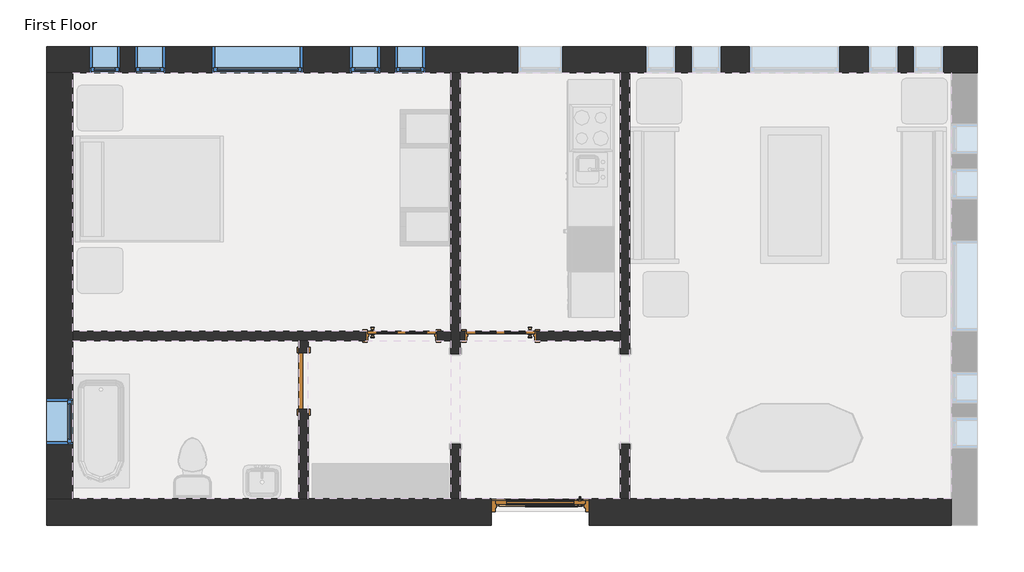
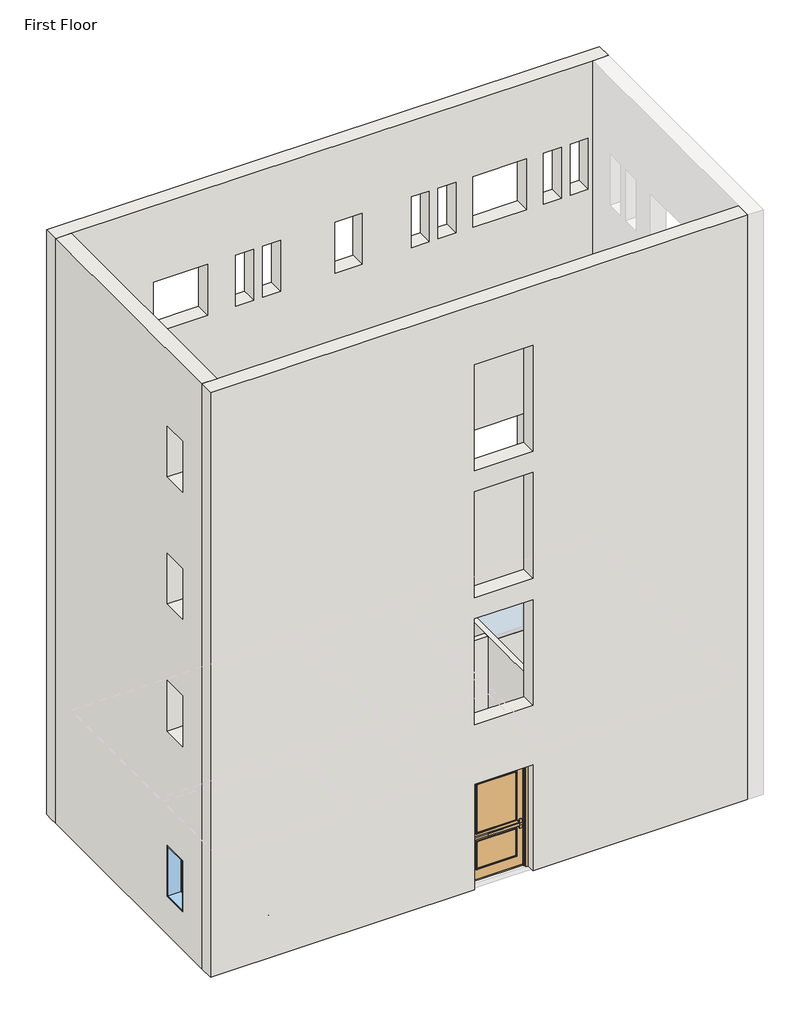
# One storey, part 1 of 2: 7 walls, 6 windows, 4 doors.
"""IFC4 building model written with IfcOpenShell, lengths in millimetres."""

from ifc_helpers import new_model, si_unit, frame, origin, place, context, project, spatial, polyline, outline, extrude, faceted_brep, transform, mapped, element, save
from components import door_734823c0, door_3a280f7b, door_48307b55, door_4d6c7550, window_da97879f, window_d61ef850, window_60baf983, window_6eb97611

model = new_model("IFC4")

# Units and contexts
model_context = context("Model", 3, world=origin())
ifc_project = project(units=[si_unit("LENGTHUNIT", "METRE", prefix="MILLI")], contexts=[model_context])

# Site, building, storey
site = spatial("IfcSite", under=ifc_project)
building = spatial("IfcBuilding", under=site)
storey = spatial("IfcBuildingStorey", under=building, Name="First Floor", Elevation=-914.4)

# Doors
placement = place(None, origin())
door_shape = door_734823c0(model_context)
element("IfcDoor", 1, ObjectType="Door-Exterior-Single-Two_Lite : 48\" x 96\"", at=placement, inside=storey, context=model_context, shape_type="MappedRepresentation", body=[
    mapped(door_shape, transform((-9720.1844712, 1685.5066174, -914.4), x_axis=(-1.0, 0.0, 0.0), y_axis=(0.0, -1.0, 0.0), z_axis=(0.0, 0.0, 1.0))),
])
door_2_shape = door_3a280f7b(model_context)
element("IfcDoor", 2, ObjectType="Door-Interior-Single-4_Panel-Wood : 36\" x 84\"", at=placement, inside=storey, context=model_context, shape_type="MappedRepresentation", body=[
    mapped(door_2_shape, transform((-10253.5844712, 4068.3441174, -914.4), x_axis=(-1.0, 0.0, 0.0), y_axis=(0.0, -1.0, 0.0), z_axis=(0.0, 0.0, 1.0))),
])
door_3_shape = door_48307b55(model_context)
element("IfcDoor", 3, ObjectType="Door-Interior-Single-4_Panel-Wood : 36\" x 84\"", at=placement, inside=storey, context=model_context, shape_type="MappedRepresentation", body=[
    mapped(door_3_shape, transform((-11588.6719712, 4068.3441174, -914.4), x_axis=(1.0, 0.0, 0.0), y_axis=(0.0, 1.0, 0.0), z_axis=(0.0, 0.0, 1.0))),
])
door_4_shape = door_4d6c7550(model_context)
element("IfcDoor", 4, ObjectType="Single-Flush : 30\" x 84\"", at=placement, inside=storey, context=model_context, shape_type="MappedRepresentation", body=[
    mapped(door_4_shape, transform((-12909.4719712, 3455.5691174, -914.4), x_axis=(0.0, 1.0, 0.0), y_axis=(-1.0, 0.0, 0.0), z_axis=(0.0, 0.0, 1.0))),
])

# Walls
element("IfcWall", 5, ObjectType="Exterior - Brick on Mtl. Stud", at=placement, inside=storey, context=model_context, shape_type="Brep", body=[
    faceted_brep([(-16373.3969712, 7611.6441174, -914.4), (-16186.0719712, 7611.6441174, -914.4), (-16020.9719712, 7611.6441174, -914.4), (-10926.6844712, 7611.6441174, -914.4), (-10799.6844712, 7611.6441174, -914.4), (-8640.6844712, 7611.6441174, -914.4), (-8513.6844712, 7611.6441174, -914.4), (-4181.3969712, 7611.6441174, -914.4), (-4016.2969712, 7611.6441174, -914.4), (-3828.9719712, 7611.6441174, -914.4), (-3828.9719712, 7611.6441174, 13106.4), (-4181.3969712, 7611.6441174, 13106.4), (-16020.9719712, 7611.6441174, 13106.4), (-16373.3969712, 7611.6441174, 13106.4), (-10024.9844712, 7611.6441174, 1219.2), (-9415.3844712, 7611.6441174, 1219.2), (-9415.3844712, 7611.6441174, 0.0), (-10024.9844712, 7611.6441174, 0.0), (-14139.7844712, 7611.6441174, 1219.2), (-12920.5844712, 7611.6441174, 1219.2), (-12920.5844712, 7611.6441174, 0.0), (-14139.7844712, 7611.6441174, 0.0), (-6900.7844712, 7611.6441174, 1219.2), (-5681.5844712, 7611.6441174, 1219.2), (-5681.5844712, 7611.6441174, 0.0), (-6900.7844712, 7611.6441174, 0.0), (-15790.7844712, 7611.6441174, 1219.2), (-15384.3844712, 7611.6441174, 1219.2), (-15384.3844712, 7611.6441174, 0.0), (-15790.7844712, 7611.6441174, 0.0), (-15181.1844712, 7611.6441174, 1219.2), (-14774.7844712, 7611.6441174, 1219.2), (-14774.7844712, 7611.6441174, 0.0), (-15181.1844712, 7611.6441174, 0.0), (-11879.1844712, 7611.6441174, 1219.2), (-11879.1844712, 7611.6441174, 0.0), (-12285.5844712, 7611.6441174, 0.0), (-12285.5844712, 7611.6441174, 1219.2), (-11269.5844712, 7611.6441174, 1219.2), (-11269.5844712, 7611.6441174, 0.0), (-11675.9844712, 7611.6441174, 0.0), (-11675.9844712, 7611.6441174, 1219.2), (-7688.1844712, 7611.6441174, 1219.2), (-7281.7844712, 7611.6441174, 1219.2), (-7281.7844712, 7611.6441174, 0.0), (-7688.1844712, 7611.6441174, 0.0), (-8297.7844712, 7611.6441174, 1219.2), (-7891.3844712, 7611.6441174, 1219.2), (-7891.3844712, 7611.6441174, 0.0), (-8297.7844712, 7611.6441174, 0.0), (-4894.1844712, 7611.6441174, 1219.2), (-4894.1844712, 7611.6441174, 0.0), (-5300.5844712, 7611.6441174, 0.0), (-5300.5844712, 7611.6441174, 1219.2), (-4284.5844712, 7611.6441174, 1219.2), (-4284.5844712, 7611.6441174, 0.0), (-4690.9844712, 7611.6441174, 0.0), (-4690.9844712, 7611.6441174, 1219.2), (-4894.1844712, 7611.6441174, 11277.6), (-4894.1844712, 7611.6441174, 10058.4), (-5300.5844712, 7611.6441174, 10058.4), (-5300.5844712, 7611.6441174, 11277.6), (-4284.5844712, 7611.6441174, 11277.6), (-4284.5844712, 7611.6441174, 10058.4), (-4690.9844712, 7611.6441174, 10058.4), (-4690.9844712, 7611.6441174, 11277.6), (-7688.1844712, 7611.6441174, 11277.6), (-7281.7844712, 7611.6441174, 11277.6), (-7281.7844712, 7611.6441174, 10058.4), (-7688.1844712, 7611.6441174, 10058.4), (-8297.7844712, 7611.6441174, 11277.6), (-7891.3844712, 7611.6441174, 11277.6), (-7891.3844712, 7611.6441174, 10058.4), (-8297.7844712, 7611.6441174, 10058.4), (-11879.1844712, 7611.6441174, 11277.6), (-11879.1844712, 7611.6441174, 10058.4), (-12285.5844712, 7611.6441174, 10058.4), (-12285.5844712, 7611.6441174, 11277.6), (-11269.5844712, 7611.6441174, 11277.6), (-11269.5844712, 7611.6441174, 10058.4), (-11675.9844712, 7611.6441174, 10058.4), (-11675.9844712, 7611.6441174, 11277.6), (-15181.1844712, 7611.6441174, 11277.6), (-14774.7844712, 7611.6441174, 11277.6), (-14774.7844712, 7611.6441174, 10058.4), (-15181.1844712, 7611.6441174, 10058.4), (-15790.7844712, 7611.6441174, 11277.6), (-15384.3844712, 7611.6441174, 11277.6), (-15384.3844712, 7611.6441174, 10058.4), (-15790.7844712, 7611.6441174, 10058.4), (-6900.7844712, 7611.6441174, 11277.6), (-5681.5844712, 7611.6441174, 11277.6), (-5681.5844712, 7611.6441174, 10058.4), (-6900.7844712, 7611.6441174, 10058.4), (-14139.7844712, 7611.6441174, 11277.6), (-12920.5844712, 7611.6441174, 11277.6), (-12920.5844712, 7611.6441174, 10058.4), (-14139.7844712, 7611.6441174, 10058.4), (-10024.9844712, 7611.6441174, 11277.6), (-9415.3844712, 7611.6441174, 11277.6), (-9415.3844712, 7611.6441174, 10058.4), (-10024.9844712, 7611.6441174, 10058.4), (-4894.1844712, 7611.6441174, 5181.6), (-4894.1844712, 7611.6441174, 3962.4), (-5300.5844712, 7611.6441174, 3962.4), (-5300.5844712, 7611.6441174, 5181.6), (-4284.5844712, 7611.6441174, 5181.6), (-4284.5844712, 7611.6441174, 3962.4), (-4690.9844712, 7611.6441174, 3962.4), (-4690.9844712, 7611.6441174, 5181.6), (-7688.1844712, 7611.6441174, 5181.6), (-7281.7844712, 7611.6441174, 5181.6), (-7281.7844712, 7611.6441174, 3962.4), (-7688.1844712, 7611.6441174, 3962.4), (-8297.7844712, 7611.6441174, 5181.6), (-7891.3844712, 7611.6441174, 5181.6), (-7891.3844712, 7611.6441174, 3962.4), (-8297.7844712, 7611.6441174, 3962.4), (-11879.1844712, 7611.6441174, 5181.6), (-11879.1844712, 7611.6441174, 3962.4), (-12285.5844712, 7611.6441174, 3962.4), (-12285.5844712, 7611.6441174, 5181.6), (-11269.5844712, 7611.6441174, 5181.6), (-11269.5844712, 7611.6441174, 3962.4), (-11675.9844712, 7611.6441174, 3962.4), (-11675.9844712, 7611.6441174, 5181.6), (-15181.1844712, 7611.6441174, 5181.6), (-14774.7844712, 7611.6441174, 5181.6), (-14774.7844712, 7611.6441174, 3962.4), (-15181.1844712, 7611.6441174, 3962.4), (-15790.7844712, 7611.6441174, 5181.6), (-15384.3844712, 7611.6441174, 5181.6), (-15384.3844712, 7611.6441174, 3962.4), (-15790.7844712, 7611.6441174, 3962.4), (-6900.7844712, 7611.6441174, 5181.6), (-5681.5844712, 7611.6441174, 5181.6), (-5681.5844712, 7611.6441174, 3962.4), (-6900.7844712, 7611.6441174, 3962.4), (-14139.7844712, 7611.6441174, 5181.6), (-12920.5844712, 7611.6441174, 5181.6), (-12920.5844712, 7611.6441174, 3962.4), (-14139.7844712, 7611.6441174, 3962.4), (-10024.9844712, 7611.6441174, 5181.6), (-9415.3844712, 7611.6441174, 5181.6), (-9415.3844712, 7611.6441174, 3962.4), (-10024.9844712, 7611.6441174, 3962.4), (-4894.1844712, 7611.6441174, 8229.6), (-4894.1844712, 7611.6441174, 7010.4), (-5300.5844712, 7611.6441174, 7010.4), (-5300.5844712, 7611.6441174, 8229.6), (-4284.5844712, 7611.6441174, 8229.6), (-4284.5844712, 7611.6441174, 7010.4), (-4690.9844712, 7611.6441174, 7010.4), (-4690.9844712, 7611.6441174, 8229.6), (-7688.1844712, 7611.6441174, 8229.6), (-7281.7844712, 7611.6441174, 8229.6), (-7281.7844712, 7611.6441174, 7010.4), (-7688.1844712, 7611.6441174, 7010.4), (-8297.7844712, 7611.6441174, 8229.6), (-7891.3844712, 7611.6441174, 8229.6), (-7891.3844712, 7611.6441174, 7010.4), (-8297.7844712, 7611.6441174, 7010.4), (-11879.1844712, 7611.6441174, 8229.6), (-11879.1844712, 7611.6441174, 7010.4), (-12285.5844712, 7611.6441174, 7010.4), (-12285.5844712, 7611.6441174, 8229.6), (-11269.5844712, 7611.6441174, 8229.6), (-11269.5844712, 7611.6441174, 7010.4), (-11675.9844712, 7611.6441174, 7010.4), (-11675.9844712, 7611.6441174, 8229.6), (-15181.1844712, 7611.6441174, 8229.6), (-14774.7844712, 7611.6441174, 8229.6), (-14774.7844712, 7611.6441174, 7010.4), (-15181.1844712, 7611.6441174, 7010.4), (-15790.7844712, 7611.6441174, 8229.6), (-15384.3844712, 7611.6441174, 8229.6), (-15384.3844712, 7611.6441174, 7010.4), (-15790.7844712, 7611.6441174, 7010.4), (-6900.7844712, 7611.6441174, 8229.6), (-5681.5844712, 7611.6441174, 8229.6), (-5681.5844712, 7611.6441174, 7010.4), (-6900.7844712, 7611.6441174, 7010.4), (-14139.7844712, 7611.6441174, 8229.6), (-12920.5844712, 7611.6441174, 8229.6), (-12920.5844712, 7611.6441174, 7010.4), (-14139.7844712, 7611.6441174, 7010.4), (-10024.9844712, 7611.6441174, 8229.6), (-9415.3844712, 7611.6441174, 8229.6), (-9415.3844712, 7611.6441174, 7010.4), (-10024.9844712, 7611.6441174, 7010.4), (-16373.3969712, 7964.0691174, -914.4), (-16373.3969712, 7964.0691174, 13106.4), (-3828.9719712, 7964.0691174, 13106.4), (-3828.9719712, 7964.0691174, -914.4), (-4016.2969712, 7964.0691174, -914.4), (-16186.0719712, 7964.0691174, -914.4), (-10024.9844712, 7964.0691174, 1219.2), (-10024.9844712, 7964.0691174, 0.0), (-9415.3844712, 7964.0691174, 0.0), (-9415.3844712, 7964.0691174, 1219.2), (-14139.7844712, 7964.0691174, 1219.2), (-14139.7844712, 7964.0691174, 0.0), (-12920.5844712, 7964.0691174, 0.0), (-12920.5844712, 7964.0691174, 1219.2), (-6900.7844712, 7964.0691174, 1219.2), (-6900.7844712, 7964.0691174, 0.0), (-5681.5844712, 7964.0691174, 0.0), (-5681.5844712, 7964.0691174, 1219.2), (-15790.7844712, 7964.0691174, 1219.2), (-15790.7844712, 7964.0691174, 0.0), (-15384.3844712, 7964.0691174, 0.0), (-15384.3844712, 7964.0691174, 1219.2), (-15181.1844712, 7964.0691174, 1219.2), (-15181.1844712, 7964.0691174, 0.0), (-14774.7844712, 7964.0691174, 0.0), (-14774.7844712, 7964.0691174, 1219.2), (-11879.1844712, 7964.0691174, 1219.2), (-12285.5844712, 7964.0691174, 1219.2), (-12285.5844712, 7964.0691174, 0.0), (-11879.1844712, 7964.0691174, 0.0), (-11269.5844712, 7964.0691174, 1219.2), (-11675.9844712, 7964.0691174, 1219.2), (-11675.9844712, 7964.0691174, 0.0), (-11269.5844712, 7964.0691174, 0.0), (-7688.1844712, 7964.0691174, 1219.2), (-7688.1844712, 7964.0691174, 0.0), (-7281.7844712, 7964.0691174, 0.0), (-7281.7844712, 7964.0691174, 1219.2), (-8297.7844712, 7964.0691174, 1219.2), (-8297.7844712, 7964.0691174, 0.0), (-7891.3844712, 7964.0691174, 0.0), (-7891.3844712, 7964.0691174, 1219.2), (-4894.1844712, 7964.0691174, 1219.2), (-5300.5844712, 7964.0691174, 1219.2), (-5300.5844712, 7964.0691174, 0.0), (-4894.1844712, 7964.0691174, 0.0), (-4284.5844712, 7964.0691174, 1219.2), (-4690.9844712, 7964.0691174, 1219.2), (-4690.9844712, 7964.0691174, 0.0), (-4284.5844712, 7964.0691174, 0.0), (-4894.1844712, 7964.0691174, 11277.6), (-5300.5844712, 7964.0691174, 11277.6), (-5300.5844712, 7964.0691174, 10058.4), (-4894.1844712, 7964.0691174, 10058.4), (-4284.5844712, 7964.0691174, 11277.6), (-4690.9844712, 7964.0691174, 11277.6), (-4690.9844712, 7964.0691174, 10058.4), (-4284.5844712, 7964.0691174, 10058.4), (-7688.1844712, 7964.0691174, 11277.6), (-7688.1844712, 7964.0691174, 10058.4), (-7281.7844712, 7964.0691174, 10058.4), (-7281.7844712, 7964.0691174, 11277.6), (-8297.7844712, 7964.0691174, 11277.6), (-8297.7844712, 7964.0691174, 10058.4), (-7891.3844712, 7964.0691174, 10058.4), (-7891.3844712, 7964.0691174, 11277.6), (-11879.1844712, 7964.0691174, 11277.6), (-12285.5844712, 7964.0691174, 11277.6), (-12285.5844712, 7964.0691174, 10058.4), (-11879.1844712, 7964.0691174, 10058.4), (-11269.5844712, 7964.0691174, 11277.6), (-11675.9844712, 7964.0691174, 11277.6), (-11675.9844712, 7964.0691174, 10058.4), (-11269.5844712, 7964.0691174, 10058.4), (-15181.1844712, 7964.0691174, 11277.6), (-15181.1844712, 7964.0691174, 10058.4), (-14774.7844712, 7964.0691174, 10058.4), (-14774.7844712, 7964.0691174, 11277.6), (-15790.7844712, 7964.0691174, 11277.6), (-15790.7844712, 7964.0691174, 10058.4), (-15384.3844712, 7964.0691174, 10058.4), (-15384.3844712, 7964.0691174, 11277.6), (-6900.7844712, 7964.0691174, 11277.6), (-6900.7844712, 7964.0691174, 10058.4), (-5681.5844712, 7964.0691174, 10058.4), (-5681.5844712, 7964.0691174, 11277.6), (-14139.7844712, 7964.0691174, 11277.6), (-14139.7844712, 7964.0691174, 10058.4), (-12920.5844712, 7964.0691174, 10058.4), (-12920.5844712, 7964.0691174, 11277.6), (-10024.9844712, 7964.0691174, 11277.6), (-10024.9844712, 7964.0691174, 10058.4), (-9415.3844712, 7964.0691174, 10058.4), (-9415.3844712, 7964.0691174, 11277.6), (-4894.1844712, 7964.0691174, 5181.6), (-5300.5844712, 7964.0691174, 5181.6), (-5300.5844712, 7964.0691174, 3962.4), (-4894.1844712, 7964.0691174, 3962.4), (-4284.5844712, 7964.0691174, 5181.6), (-4690.9844712, 7964.0691174, 5181.6), (-4690.9844712, 7964.0691174, 3962.4), (-4284.5844712, 7964.0691174, 3962.4), (-7688.1844712, 7964.0691174, 5181.6), (-7688.1844712, 7964.0691174, 3962.4), (-7281.7844712, 7964.0691174, 3962.4), (-7281.7844712, 7964.0691174, 5181.6), (-8297.7844712, 7964.0691174, 5181.6), (-8297.7844712, 7964.0691174, 3962.4), (-7891.3844712, 7964.0691174, 3962.4), (-7891.3844712, 7964.0691174, 5181.6), (-11879.1844712, 7964.0691174, 5181.6), (-12285.5844712, 7964.0691174, 5181.6), (-12285.5844712, 7964.0691174, 3962.4), (-11879.1844712, 7964.0691174, 3962.4), (-11269.5844712, 7964.0691174, 5181.6), (-11675.9844712, 7964.0691174, 5181.6), (-11675.9844712, 7964.0691174, 3962.4), (-11269.5844712, 7964.0691174, 3962.4), (-15181.1844712, 7964.0691174, 5181.6), (-15181.1844712, 7964.0691174, 3962.4), (-14774.7844712, 7964.0691174, 3962.4), (-14774.7844712, 7964.0691174, 5181.6), (-15790.7844712, 7964.0691174, 5181.6), (-15790.7844712, 7964.0691174, 3962.4), (-15384.3844712, 7964.0691174, 3962.4), (-15384.3844712, 7964.0691174, 5181.6), (-6900.7844712, 7964.0691174, 5181.6), (-6900.7844712, 7964.0691174, 3962.4), (-5681.5844712, 7964.0691174, 3962.4), (-5681.5844712, 7964.0691174, 5181.6), (-14139.7844712, 7964.0691174, 5181.6), (-14139.7844712, 7964.0691174, 3962.4), (-12920.5844712, 7964.0691174, 3962.4), (-12920.5844712, 7964.0691174, 5181.6), (-10024.9844712, 7964.0691174, 5181.6), (-10024.9844712, 7964.0691174, 3962.4), (-9415.3844712, 7964.0691174, 3962.4), (-9415.3844712, 7964.0691174, 5181.6), (-4894.1844712, 7964.0691174, 8229.6), (-5300.5844712, 7964.0691174, 8229.6), (-5300.5844712, 7964.0691174, 7010.4), (-4894.1844712, 7964.0691174, 7010.4), (-4284.5844712, 7964.0691174, 8229.6), (-4690.9844712, 7964.0691174, 8229.6), (-4690.9844712, 7964.0691174, 7010.4), (-4284.5844712, 7964.0691174, 7010.4), (-7688.1844712, 7964.0691174, 8229.6), (-7688.1844712, 7964.0691174, 7010.4), (-7281.7844712, 7964.0691174, 7010.4), (-7281.7844712, 7964.0691174, 8229.6), (-8297.7844712, 7964.0691174, 8229.6), (-8297.7844712, 7964.0691174, 7010.4), (-7891.3844712, 7964.0691174, 7010.4), (-7891.3844712, 7964.0691174, 8229.6), (-11879.1844712, 7964.0691174, 8229.6), (-12285.5844712, 7964.0691174, 8229.6), (-12285.5844712, 7964.0691174, 7010.4), (-11879.1844712, 7964.0691174, 7010.4), (-11269.5844712, 7964.0691174, 8229.6), (-11675.9844712, 7964.0691174, 8229.6), (-11675.9844712, 7964.0691174, 7010.4), (-11269.5844712, 7964.0691174, 7010.4), (-15181.1844712, 7964.0691174, 8229.6), (-15181.1844712, 7964.0691174, 7010.4), (-14774.7844712, 7964.0691174, 7010.4), (-14774.7844712, 7964.0691174, 8229.6), (-15790.7844712, 7964.0691174, 8229.6), (-15790.7844712, 7964.0691174, 7010.4), (-15384.3844712, 7964.0691174, 7010.4), (-15384.3844712, 7964.0691174, 8229.6), (-6900.7844712, 7964.0691174, 8229.6), (-6900.7844712, 7964.0691174, 7010.4), (-5681.5844712, 7964.0691174, 7010.4), (-5681.5844712, 7964.0691174, 8229.6), (-14139.7844712, 7964.0691174, 8229.6), (-14139.7844712, 7964.0691174, 7010.4), (-12920.5844712, 7964.0691174, 7010.4), (-12920.5844712, 7964.0691174, 8229.6), (-10024.9844712, 7964.0691174, 8229.6), (-10024.9844712, 7964.0691174, 7010.4), (-9415.3844712, 7964.0691174, 7010.4), (-9415.3844712, 7964.0691174, 8229.6), (-3828.9719712, 7776.7441174, -914.4), (-16373.3969712, 7776.7441174, -914.4), (-16186.0719712, 7776.7441174, -914.4), (-4016.2969712, 7776.7441174, -914.4)], [[[0, 1, 2, 3, 4, 5, 6, 7, 8, 9, 10, 11, 12, 13], [14, 15, 16, 17], [18, 19, 20, 21], [22, 23, 24, 25], [26, 27, 28, 29], [30, 31, 32, 33], [34, 35, 36, 37], [38, 39, 40, 41], [42, 43, 44, 45], [46, 47, 48, 49], [50, 51, 52, 53], [54, 55, 56, 57], [58, 59, 60, 61], [62, 63, 64, 65], [66, 67, 68, 69], [70, 71, 72, 73], [74, 75, 76, 77], [78, 79, 80, 81], [82, 83, 84, 85], [86, 87, 88, 89], [90, 91, 92, 93], [94, 95, 96, 97], [98, 99, 100, 101], [102, 103, 104, 105], [106, 107, 108, 109], [110, 111, 112, 113], [114, 115, 116, 117], [118, 119, 120, 121], [122, 123, 124, 125], [126, 127, 128, 129], [130, 131, 132, 133], [134, 135, 136, 137], [138, 139, 140, 141], [142, 143, 144, 145], [146, 147, 148, 149], [150, 151, 152, 153], [154, 155, 156, 157], [158, 159, 160, 161], [162, 163, 164, 165], [166, 167, 168, 169], [170, 171, 172, 173], [174, 175, 176, 177], [178, 179, 180, 181], [182, 183, 184, 185], [186, 187, 188, 189]], [[190, 191, 192, 193, 194, 195], [196, 197, 198, 199], [200, 201, 202, 203], [204, 205, 206, 207], [208, 209, 210, 211], [212, 213, 214, 215], [216, 217, 218, 219], [220, 221, 222, 223], [224, 225, 226, 227], [228, 229, 230, 231], [232, 233, 234, 235], [236, 237, 238, 239], [240, 241, 242, 243], [244, 245, 246, 247], [248, 249, 250, 251], [252, 253, 254, 255], [256, 257, 258, 259], [260, 261, 262, 263], [264, 265, 266, 267], [268, 269, 270, 271], [272, 273, 274, 275], [276, 277, 278, 279], [280, 281, 282, 283], [284, 285, 286, 287], [288, 289, 290, 291], [292, 293, 294, 295], [296, 297, 298, 299], [300, 301, 302, 303], [304, 305, 306, 307], [308, 309, 310, 311], [312, 313, 314, 315], [316, 317, 318, 319], [320, 321, 322, 323], [324, 325, 326, 327], [328, 329, 330, 331], [332, 333, 334, 335], [336, 337, 338, 339], [340, 341, 342, 343], [344, 345, 346, 347], [348, 349, 350, 351], [352, 353, 354, 355], [356, 357, 358, 359], [360, 361, 362, 363], [364, 365, 366, 367], [368, 369, 370, 371]], [[13, 12, 11, 10, 192, 191]], [[10, 9, 372, 193, 192]], [[0, 13, 191, 190, 373]], [[197, 196, 14, 17]], [[198, 197, 17, 16]], [[199, 198, 16, 15]], [[196, 199, 15, 14]], [[201, 200, 18, 21]], [[202, 201, 21, 20]], [[203, 202, 20, 19]], [[200, 203, 19, 18]], [[205, 204, 22, 25]], [[206, 205, 25, 24]], [[207, 206, 24, 23]], [[204, 207, 23, 22]], [[209, 208, 26, 29]], [[210, 209, 29, 28]], [[211, 210, 28, 27]], [[208, 211, 27, 26]], [[213, 212, 30, 33]], [[214, 213, 33, 32]], [[215, 214, 32, 31]], [[212, 215, 31, 30]], [[35, 34, 216, 219]], [[36, 35, 219, 218]], [[37, 36, 218, 217]], [[34, 37, 217, 216]], [[39, 38, 220, 223]], [[40, 39, 223, 222]], [[41, 40, 222, 221]], [[38, 41, 221, 220]], [[225, 224, 42, 45]], [[226, 225, 45, 44]], [[227, 226, 44, 43]], [[224, 227, 43, 42]], [[229, 228, 46, 49]], [[230, 229, 49, 48]], [[231, 230, 48, 47]], [[228, 231, 47, 46]], [[51, 50, 232, 235]], [[52, 51, 235, 234]], [[53, 52, 234, 233]], [[50, 53, 233, 232]], [[55, 54, 236, 239]], [[56, 55, 239, 238]], [[57, 56, 238, 237]], [[54, 57, 237, 236]], [[1, 0, 373, 374]], [[373, 190, 195, 374]], [[9, 8, 375, 372]], [[195, 194, 375, 374]], [[194, 193, 372, 375]], [[8, 7, 6, 5, 4, 3, 2, 1, 374, 375]], [[59, 58, 240, 243]], [[60, 59, 243, 242]], [[61, 60, 242, 241]], [[58, 61, 241, 240]], [[63, 62, 244, 247]], [[64, 63, 247, 246]], [[65, 64, 246, 245]], [[62, 65, 245, 244]], [[249, 248, 66, 69]], [[250, 249, 69, 68]], [[251, 250, 68, 67]], [[248, 251, 67, 66]], [[253, 252, 70, 73]], [[254, 253, 73, 72]], [[255, 254, 72, 71]], [[252, 255, 71, 70]], [[75, 74, 256, 259]], [[76, 75, 259, 258]], [[77, 76, 258, 257]], [[74, 77, 257, 256]], [[79, 78, 260, 263]], [[80, 79, 263, 262]], [[81, 80, 262, 261]], [[78, 81, 261, 260]], [[265, 264, 82, 85]], [[266, 265, 85, 84]], [[267, 266, 84, 83]], [[264, 267, 83, 82]], [[269, 268, 86, 89]], [[270, 269, 89, 88]], [[271, 270, 88, 87]], [[268, 271, 87, 86]], [[273, 272, 90, 93]], [[274, 273, 93, 92]], [[275, 274, 92, 91]], [[272, 275, 91, 90]], [[277, 276, 94, 97]], [[278, 277, 97, 96]], [[279, 278, 96, 95]], [[276, 279, 95, 94]], [[281, 280, 98, 101]], [[282, 281, 101, 100]], [[283, 282, 100, 99]], [[280, 283, 99, 98]], [[103, 102, 284, 287]], [[104, 103, 287, 286]], [[105, 104, 286, 285]], [[102, 105, 285, 284]], [[107, 106, 288, 291]], [[108, 107, 291, 290]], [[109, 108, 290, 289]], [[106, 109, 289, 288]], [[293, 292, 110, 113]], [[294, 293, 113, 112]], [[295, 294, 112, 111]], [[292, 295, 111, 110]], [[297, 296, 114, 117]], [[298, 297, 117, 116]], [[299, 298, 116, 115]], [[296, 299, 115, 114]], [[119, 118, 300, 303]], [[120, 119, 303, 302]], [[121, 120, 302, 301]], [[118, 121, 301, 300]], [[123, 122, 304, 307]], [[124, 123, 307, 306]], [[125, 124, 306, 305]], [[122, 125, 305, 304]], [[309, 308, 126, 129]], [[310, 309, 129, 128]], [[311, 310, 128, 127]], [[308, 311, 127, 126]], [[313, 312, 130, 133]], [[314, 313, 133, 132]], [[315, 314, 132, 131]], [[312, 315, 131, 130]], [[317, 316, 134, 137]], [[318, 317, 137, 136]], [[319, 318, 136, 135]], [[316, 319, 135, 134]], [[321, 320, 138, 141]], [[322, 321, 141, 140]], [[323, 322, 140, 139]], [[320, 323, 139, 138]], [[325, 324, 142, 145]], [[326, 325, 145, 144]], [[327, 326, 144, 143]], [[324, 327, 143, 142]], [[147, 146, 328, 331]], [[148, 147, 331, 330]], [[149, 148, 330, 329]], [[146, 149, 329, 328]], [[151, 150, 332, 335]], [[152, 151, 335, 334]], [[153, 152, 334, 333]], [[150, 153, 333, 332]], [[337, 336, 154, 157]], [[338, 337, 157, 156]], [[339, 338, 156, 155]], [[336, 339, 155, 154]], [[341, 340, 158, 161]], [[342, 341, 161, 160]], [[343, 342, 160, 159]], [[340, 343, 159, 158]], [[163, 162, 344, 347]], [[164, 163, 347, 346]], [[165, 164, 346, 345]], [[162, 165, 345, 344]], [[167, 166, 348, 351]], [[168, 167, 351, 350]], [[169, 168, 350, 349]], [[166, 169, 349, 348]], [[353, 352, 170, 173]], [[354, 353, 173, 172]], [[355, 354, 172, 171]], [[352, 355, 171, 170]], [[357, 356, 174, 177]], [[358, 357, 177, 176]], [[359, 358, 176, 175]], [[356, 359, 175, 174]], [[361, 360, 178, 181]], [[362, 361, 181, 180]], [[363, 362, 180, 179]], [[360, 363, 179, 178]], [[365, 364, 182, 185]], [[366, 365, 185, 184]], [[367, 366, 184, 183]], [[364, 367, 183, 182]], [[369, 368, 186, 189]], [[370, 369, 189, 188]], [[371, 370, 188, 187]], [[368, 371, 187, 186]]]),
])
element("IfcWall", 6, ObjectType="Exterior - Brick on Mtl. Stud", at=placement, inside=storey, context=model_context, shape_type="Brep", body=[
    faceted_brep([(-16373.3969712, 1868.0691174, 13106.4), (-16020.9719712, 1868.0691174, 13106.4), (-4181.3969712, 1868.0691174, 13106.4), (-4181.3969712, 1868.0691174, -914.4), (-8513.6844712, 1868.0691174, -914.4), (-8640.6844712, 1868.0691174, -914.4), (-9059.7844712, 1868.0691174, -914.4), (-9059.7844712, 1868.0691174, 1625.6), (-10380.5844712, 1868.0691174, 1625.6), (-10380.5844712, 1868.0691174, -914.4), (-10799.6844712, 1868.0691174, -914.4), (-10926.6844712, 1868.0691174, -914.4), (-12845.9719712, 1868.0691174, -914.4), (-12972.9719712, 1868.0691174, -914.4), (-16020.9719712, 1868.0691174, -914.4), (-16373.3969712, 1868.0691174, -914.4), (-10380.5844712, 1868.0691174, 9144.0), (-9059.7844712, 1868.0691174, 9144.0), (-9059.7844712, 1868.0691174, 11684.0), (-10380.5844712, 1868.0691174, 11684.0), (-10380.5844712, 1868.0691174, 3048.0), (-9059.7844712, 1868.0691174, 3048.0), (-9059.7844712, 1868.0691174, 5588.0), (-10380.5844712, 1868.0691174, 5588.0), (-10380.5844712, 1868.0691174, 6096.0), (-9059.7844712, 1868.0691174, 6096.0), (-9059.7844712, 1868.0691174, 8636.0), (-10380.5844712, 1868.0691174, 8636.0), (-4181.3969712, 1515.6441174, 13106.4), (-16373.3969712, 1515.6441174, 13106.4), (-16373.3969712, 1515.6441174, -914.4), (-10380.5844712, 1515.6441174, -914.4), (-10380.5844712, 1515.6441174, 1625.6), (-9059.7844712, 1515.6441174, 1625.6), (-9059.7844712, 1515.6441174, -914.4), (-4181.3969712, 1515.6441174, -914.4), (-10380.5844712, 1515.6441174, 9144.0), (-10380.5844712, 1515.6441174, 11684.0), (-9059.7844712, 1515.6441174, 11684.0), (-9059.7844712, 1515.6441174, 9144.0), (-10380.5844712, 1515.6441174, 3048.0), (-10380.5844712, 1515.6441174, 5588.0), (-9059.7844712, 1515.6441174, 5588.0), (-9059.7844712, 1515.6441174, 3048.0), (-10380.5844712, 1515.6441174, 6096.0), (-10380.5844712, 1515.6441174, 8636.0), (-9059.7844712, 1515.6441174, 8636.0), (-9059.7844712, 1515.6441174, 6096.0)], [[[0, 1, 2, 3, 4, 5, 6, 7, 8, 9, 10, 11, 12, 13, 14, 15], [16, 17, 18, 19], [20, 21, 22, 23], [24, 25, 26, 27]], [[28, 29, 30, 31, 32, 33, 34, 35], [36, 37, 38, 39], [40, 41, 42, 43], [44, 45, 46, 47]], [[3, 35, 34, 6, 5, 4]], [[30, 15, 14, 13, 12, 11, 10, 9, 31]], [[2, 1, 0, 29, 28]], [[3, 2, 28, 35]], [[0, 15, 30, 29]], [[8, 32, 31, 9]], [[32, 8, 7, 33]], [[33, 7, 6, 34]], [[37, 36, 16, 19]], [[38, 37, 19, 18]], [[39, 38, 18, 17]], [[36, 39, 17, 16]], [[41, 40, 20, 23]], [[42, 41, 23, 22]], [[43, 42, 22, 21]], [[40, 43, 21, 20]], [[45, 44, 24, 27]], [[46, 45, 27, 26]], [[47, 46, 26, 25]], [[44, 47, 25, 24]]]),
])
element("IfcWall", 7, ObjectType="Exterior - Brick on Mtl. Stud", at=placement, inside=storey, context=model_context, shape_type="Brep", body=[
    faceted_brep([(-16020.9719712, 1868.0691174, -914.4), (-16020.9719712, 4001.6691174, -914.4), (-16020.9719712, 4128.6691174, -914.4), (-16020.9719712, 7611.6441174, -914.4), (-16020.9719712, 7611.6441174, 13106.4), (-16020.9719712, 1868.0691174, 13106.4), (-16020.9719712, 2606.2566174, 1219.2), (-16020.9719712, 3215.8566174, 1219.2), (-16020.9719712, 3215.8566174, 0.0), (-16020.9719712, 2606.2566174, 0.0), (-16020.9719712, 2606.2566174, 11277.6), (-16020.9719712, 3215.8566174, 11277.6), (-16020.9719712, 3215.8566174, 10058.4), (-16020.9719712, 2606.2566174, 10058.4), (-16020.9719712, 2606.2566174, 5181.6), (-16020.9719712, 3215.8566174, 5181.6), (-16020.9719712, 3215.8566174, 3962.4), (-16020.9719712, 2606.2566174, 3962.4), (-16020.9719712, 2606.2566174, 8229.6), (-16020.9719712, 3215.8566174, 8229.6), (-16020.9719712, 3215.8566174, 7010.4), (-16020.9719712, 2606.2566174, 7010.4), (-16373.3969712, 1868.0691174, -914.4), (-16373.3969712, 1868.0691174, 13106.4), (-16373.3969712, 7611.6441174, 13106.4), (-16373.3969712, 7611.6441174, -914.4), (-16373.3969712, 2606.2566174, 1219.2), (-16373.3969712, 2606.2566174, 0.0), (-16373.3969712, 3215.8566174, 0.0), (-16373.3969712, 3215.8566174, 1219.2), (-16373.3969712, 2606.2566174, 11277.6), (-16373.3969712, 2606.2566174, 10058.4), (-16373.3969712, 3215.8566174, 10058.4), (-16373.3969712, 3215.8566174, 11277.6), (-16373.3969712, 2606.2566174, 5181.6), (-16373.3969712, 2606.2566174, 3962.4), (-16373.3969712, 3215.8566174, 3962.4), (-16373.3969712, 3215.8566174, 5181.6), (-16373.3969712, 2606.2566174, 8229.6), (-16373.3969712, 2606.2566174, 7010.4), (-16373.3969712, 3215.8566174, 7010.4), (-16373.3969712, 3215.8566174, 8229.6), (-16186.0719712, 1868.0691174, -914.4), (-16186.0719712, 7611.6441174, -914.4)], [[[0, 1, 2, 3, 4, 5], [6, 7, 8, 9], [10, 11, 12, 13], [14, 15, 16, 17], [18, 19, 20, 21]], [[22, 23, 24, 25], [26, 27, 28, 29], [30, 31, 32, 33], [34, 35, 36, 37], [38, 39, 40, 41]], [[5, 4, 24, 23]], [[0, 5, 23, 22, 42]], [[4, 3, 43, 25, 24]], [[27, 26, 6, 9]], [[28, 27, 9, 8]], [[29, 28, 8, 7]], [[26, 29, 7, 6]], [[42, 22, 25, 43]], [[3, 2, 1, 0, 42, 43]], [[31, 30, 10, 13]], [[32, 31, 13, 12]], [[33, 32, 12, 11]], [[30, 33, 11, 10]], [[35, 34, 14, 17]], [[36, 35, 17, 16]], [[37, 36, 16, 15]], [[34, 37, 15, 14]], [[39, 38, 18, 21]], [[40, 39, 21, 20]], [[41, 40, 20, 19]], [[38, 41, 19, 18]]]),
])
element("IfcWall", 8, ObjectType="Interior - 5\" Partition (2-hr)", at=placement, inside=storey, context=model_context, shape_type="Brep", body=[
    faceted_brep([(-8640.6844712, 7611.6441174, -914.4), (-8640.6844712, 4128.6691174, -914.4), (-8640.6844712, 4001.6691174, -914.4), (-8640.6844712, 3825.4566174, -914.4), (-8640.6844712, 3825.4566174, 1219.2), (-8640.6844712, 2606.2566174, 1219.2), (-8640.6844712, 2606.2566174, -914.4), (-8640.6844712, 1868.0691174, -914.4), (-8640.6844712, 1868.0691174, 3048.0), (-8640.6844712, 4001.6691174, 3048.0), (-8640.6844712, 4128.6691174, 3048.0), (-8640.6844712, 7611.6441174, 3048.0), (-8513.6844712, 3825.4566174, 1219.2), (-8513.6844712, 3825.4566174, -914.4), (-8513.6844712, 7611.6441174, -914.4), (-8513.6844712, 7611.6441174, 3048.0), (-8513.6844712, 1868.0691174, 3048.0), (-8513.6844712, 1868.0691174, -914.4), (-8513.6844712, 2606.2566174, -914.4), (-8513.6844712, 2606.2566174, 1219.2)], [[[0, 1, 2, 3, 4, 5, 6, 7, 8, 9, 10, 11]], [[12, 13, 14, 15, 16, 17, 18, 19]], [[18, 17, 7, 6]], [[14, 13, 3, 2, 1, 0]], [[11, 10, 9, 8, 16, 15]], [[0, 11, 15, 14]], [[8, 7, 17, 16]], [[6, 5, 19, 18]], [[4, 3, 13, 12]], [[5, 4, 12, 19]]]),
])
element("IfcWall", 9, ObjectType="Interior - 5\" Partition (2-hr)", at=placement, inside=storey, context=model_context, shape_type="Brep", body=[
    faceted_brep([(-10926.6844712, 7611.6441174, -914.4), (-10926.6844712, 4128.6691174, -914.4), (-10926.6844712, 4001.6691174, -914.4), (-10926.6844712, 3825.4566174, -914.4), (-10926.6844712, 3825.4566174, 1219.2), (-10926.6844712, 2606.2566174, 1219.2), (-10926.6844712, 2606.2566174, -914.4), (-10926.6844712, 1868.0691174, -914.4), (-10926.6844712, 1868.0691174, 3048.0), (-10926.6844712, 4001.6691174, 3048.0), (-10926.6844712, 4128.6691174, 3048.0), (-10926.6844712, 7611.6441174, 3048.0), (-10799.6844712, 3825.4566174, 1219.2), (-10799.6844712, 3825.4566174, -914.4), (-10799.6844712, 4001.6691174, -914.4), (-10799.6844712, 4128.6691174, -914.4), (-10799.6844712, 7611.6441174, -914.4), (-10799.6844712, 7611.6441174, 3048.0), (-10799.6844712, 4128.6691174, 3048.0), (-10799.6844712, 4001.6691174, 3048.0), (-10799.6844712, 1868.0691174, 3048.0), (-10799.6844712, 1868.0691174, -914.4), (-10799.6844712, 2606.2566174, -914.4), (-10799.6844712, 2606.2566174, 1219.2)], [[[0, 1, 2, 3, 4, 5, 6, 7, 8, 9, 10, 11]], [[12, 13, 14, 15, 16, 17, 18, 19, 20, 21, 22, 23]], [[22, 21, 7, 6]], [[16, 15, 14, 13, 3, 2, 1, 0]], [[11, 10, 9, 8, 20, 19, 18, 17]], [[0, 11, 17, 16]], [[8, 7, 21, 20]], [[6, 5, 23, 22]], [[4, 3, 13, 12]], [[5, 4, 12, 23]]]),
])
element("IfcWall", 10, ObjectType="Interior - 5\" Partition (2-hr)", at=placement, inside=storey, context=model_context, shape_type="Brep", body=[
    faceted_brep([(-16020.9719712, 4001.6691174, 3048.0), (-16020.9719712, 4001.6691174, -914.4), (-12972.9719712, 4001.6691174, -914.4), (-12845.9719712, 4001.6691174, -914.4), (-12071.2719712, 4001.6691174, -914.4), (-12071.2719712, 4001.6691174, 1244.6), (-11106.0719712, 4001.6691174, 1244.6), (-11106.0719712, 4001.6691174, -914.4), (-10926.6844712, 4001.6691174, -914.4), (-10926.6844712, 4001.6691174, 3048.0), (-12845.9719712, 4001.6691174, 3048.0), (-12972.9719712, 4001.6691174, 3048.0), (-16020.9719712, 4128.6691174, -914.4), (-16020.9719712, 4128.6691174, 3048.0), (-10926.6844712, 4128.6691174, 3048.0), (-10926.6844712, 4128.6691174, -914.4), (-11106.0719712, 4128.6691174, -914.4), (-11106.0719712, 4128.6691174, 1244.6), (-12071.2719712, 4128.6691174, 1244.6), (-12071.2719712, 4128.6691174, -914.4)], [[[0, 1, 2, 3, 4, 5, 6, 7, 8, 9, 10, 11]], [[12, 13, 14, 15, 16, 17, 18, 19]], [[1, 12, 19, 4, 3, 2]], [[7, 16, 15, 8]], [[13, 0, 11, 10, 9, 14]], [[1, 0, 13, 12]], [[9, 8, 15, 14]], [[6, 17, 16, 7]], [[17, 6, 5, 18]], [[18, 5, 4, 19]]]),
    faceted_brep([(-8640.6844712, 4001.6691174, -914.4), (-8640.6844712, 4001.6691174, 3048.0), (-10799.6844712, 4001.6691174, 3048.0), (-10799.6844712, 4001.6691174, -914.4), (-10736.1844712, 4001.6691174, -914.4), (-10736.1844712, 4001.6691174, 1244.6), (-9770.9844712, 4001.6691174, 1244.6), (-9770.9844712, 4001.6691174, -914.4), (-8640.6844712, 4128.6691174, 3048.0), (-8640.6844712, 4128.6691174, -914.4), (-9770.9844712, 4128.6691174, -914.4), (-9770.9844712, 4128.6691174, 1244.6), (-10736.1844712, 4128.6691174, 1244.6), (-10736.1844712, 4128.6691174, -914.4), (-10799.6844712, 4128.6691174, -914.4), (-10799.6844712, 4128.6691174, 3048.0)], [[[0, 1, 2, 3, 4, 5, 6, 7]], [[8, 9, 10, 11, 12, 13, 14, 15]], [[9, 0, 7, 10]], [[13, 4, 3, 14]], [[1, 8, 15, 2]], [[1, 0, 9, 8]], [[3, 2, 15, 14]], [[5, 4, 13, 12]], [[6, 5, 12, 11]], [[7, 6, 11, 10]]]),
])
element("IfcWall", 11, ObjectType="Interior - 5\" Partition (2-hr)", at=placement, inside=storey, context=model_context, shape_type="SweptSolid", body=[
    extrude(outline(polyline([(4001.6691174, -914.4), (3836.5691174, -914.4), (3836.5691174, 1219.2), (3074.5691174, 1219.2), (3074.5691174, -914.4), (1868.0691174, -914.4), (1868.0691174, 3048.0), (4001.6691174, 3048.0), (4001.6691174, -914.4)])), frame((-12972.9719712, 0.0, 0.0), z_axis=(1.0, 0.0, 0.0), x_axis=(0.0, 1.0, 0.0)), (0.0, 0.0, 1.0), 127.0),
])

# Windows
window_shape = window_da97879f(model_context)
element("IfcWindow", 12, ObjectType="Fixed : 16\" x 48\"", at=placement, inside=storey, context=model_context, shape_type="MappedRepresentation", body=[
    mapped(window_shape, transform((-15625.6844712, 7787.8566174, -914.4), x_axis=(-1.0, 0.0, 0.0), y_axis=(0.0, -1.0, 0.0), z_axis=(0.0, 0.0, 1.0))),
])
element("IfcWindow", 13, ObjectType="Fixed : 16\" x 48\"", at=placement, inside=storey, context=model_context, shape_type="MappedRepresentation", body=[
    mapped(window_shape, transform((-15016.0844712, 7787.8566174, -914.4), x_axis=(-1.0, 0.0, 0.0), y_axis=(0.0, -1.0, 0.0), z_axis=(0.0, 0.0, 1.0))),
])
window_2_shape = window_d61ef850(model_context)
element("IfcWindow", 14, ObjectType="Fixed : 16\" x 48\"", at=placement, inside=storey, context=model_context, shape_type="MappedRepresentation", body=[
    mapped(window_2_shape, transform((-11434.6844712, 7787.8566174, -914.4), x_axis=(1.0, 0.0, 0.0), y_axis=(0.0, 1.0, 0.0), z_axis=(0.0, 0.0, 1.0))),
])
element("IfcWindow", 15, ObjectType="Fixed : 16\" x 48\"", at=placement, inside=storey, context=model_context, shape_type="MappedRepresentation", body=[
    mapped(window_2_shape, transform((-12044.2844712, 7787.8566174, -914.4), x_axis=(1.0, 0.0, 0.0), y_axis=(0.0, 1.0, 0.0), z_axis=(0.0, 0.0, 1.0))),
])
window_3_shape = window_60baf983(model_context)
element("IfcWindow", 16, ObjectType="Fixed : 24\" x 48\"", at=placement, inside=storey, context=model_context, shape_type="MappedRepresentation", body=[
    mapped(window_3_shape, transform((-16197.1844712, 2872.9566174, -914.4), x_axis=(0.0, -1.0, 0.0), y_axis=(1.0, 0.0, 0.0), z_axis=(0.0, 0.0, 1.0))),
])
window_4_shape = window_6eb97611(model_context)
element("IfcWindow", 17, ObjectType="Fixed : 48\" x 48\"", at=placement, inside=storey, context=model_context, shape_type="MappedRepresentation", body=[
    mapped(window_4_shape, transform((-13568.2844712, 7787.8566174, -914.4), x_axis=(-1.0, 0.0, 0.0), y_axis=(0.0, -1.0, 0.0), z_axis=(0.0, 0.0, 1.0))),
])

save(model, "model.ifc")
